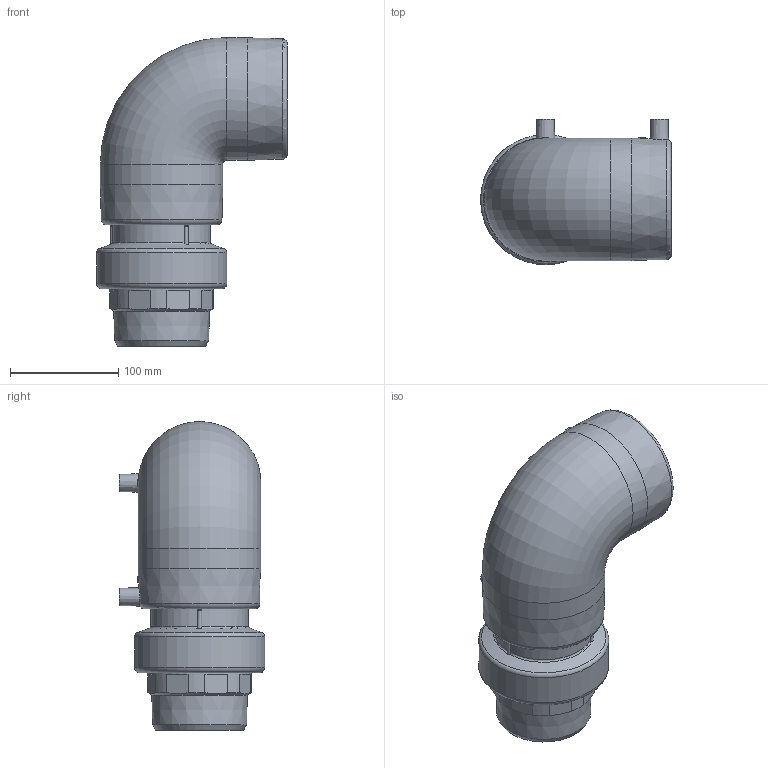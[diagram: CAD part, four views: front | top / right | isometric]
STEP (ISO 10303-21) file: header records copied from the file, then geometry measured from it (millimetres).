
FILE_DESCRIPTION(/* description */ ('Unknown'),/* implementation_level */ '2;1');
FILE_NAME(/* name */ 'GE9TMP090C',/* time_stamp */ '2021-03-02T12:28:52+01:00',/* author */ ('Unknown'),/* organization */ ('Unknown'),/* preprocessor_version */ 'ST-DEVELOPER v16.7',/* originating_system */ 'Solid Edge',/* authorisation */ 'Unknown');
FILE_SCHEMA (('AUTOMOTIVE_DESIGN {1 0 10303 214 3 1 1}'));
Length unit declared in the file: millimetre
Products named in the file (5): GE9TMP090C; GE9P090C; RTOMP090C; Parte PE 090; IOM090C
Assembly tree (4 placements, depth 3):
  GE9TMP090C
    GE9P090C
    RTOMP090C
      Parte PE 090
      IOM090C
Bounding box: 176 x 134 x 284.5 mm (x, y, z)
Volume: 1373354.1 mm3; surface area: 289984.1 mm2
Topology: 3 solids, 3 shells, 429 faces, 1205 edges, 787 vertices
Faces by surface type: cylinder 197, cone 94, plane 86, torus 23, bspline 15, sphere 14
Full cylindrical faces by diameter (mm): 4 x2, 6 x2, 12 x2, 73.6 x1, 76 x2, 79.5 x2, 84.3 x2, 84.5 x2, 90 x3, 95.5 x1, 98 x2, 104 x4, 113 x2, 120 x1
Entity records: 16137 total; most frequent: CARTESIAN_POINT 5059, ORIENTED_EDGE 2192, DIRECTION 1766, EDGE_CURVE 1096, AXIS2_PLACEMENT_3D 869, VERTEX_POINT 747, B_SPLINE_CURVE_WITH_KNOTS 618, EDGE_LOOP 509
